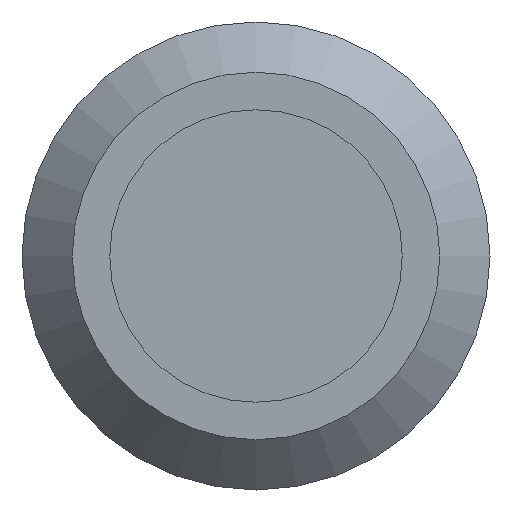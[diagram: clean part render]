
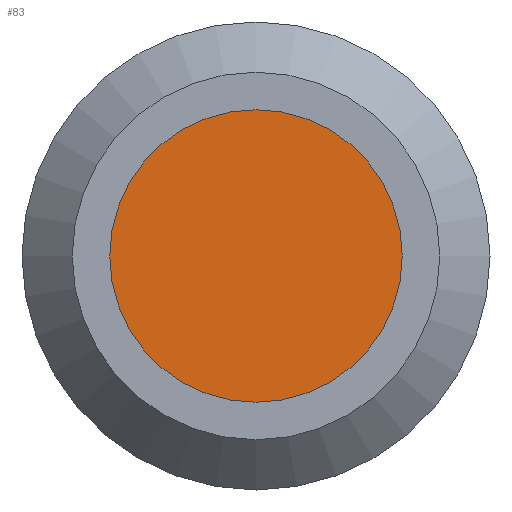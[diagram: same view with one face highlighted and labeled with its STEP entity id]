
A CAD part, front view. The second image highlights one B-rep face of the part: STEP entity #83.
In plain terms, the highlighted planar face has unit normal (0, -1, 0).
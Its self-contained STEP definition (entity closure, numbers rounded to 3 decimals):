
#83 = ADVANCED_FACE( '', ( #107 ), #108, .F. );
#107 = FACE_OUTER_BOUND( '', #141, .T. );
#108 = PLANE( '', #142 );
#141 = EDGE_LOOP( '', ( #219 ) );
#142 = AXIS2_PLACEMENT_3D( '', #220, #221, #222 );
#219 = ORIENTED_EDGE( '', *, *, #267, .T. );
#220 = CARTESIAN_POINT( '', ( 1.25, 0., 0. ) );
#221 = DIRECTION( '', ( 0., 1., 0. ) );
#222 = DIRECTION( '', ( 0., 0., 1. ) );
#267 = EDGE_CURVE( '', #304, #304, #305, .T. );
#304 = VERTEX_POINT( '', #364 );
#305 = CIRCLE( '', #365, 1.25 );
#364 = CARTESIAN_POINT( '', ( 0., 0., -1.25 ) );
#365 = AXIS2_PLACEMENT_3D( '', #395, #396, #397 );
#395 = CARTESIAN_POINT( '', ( 0., 0., 0. ) );
#396 = DIRECTION( '', ( 0., -1., 0. ) );
#397 = DIRECTION( '', ( 0., 0., -1. ) );
